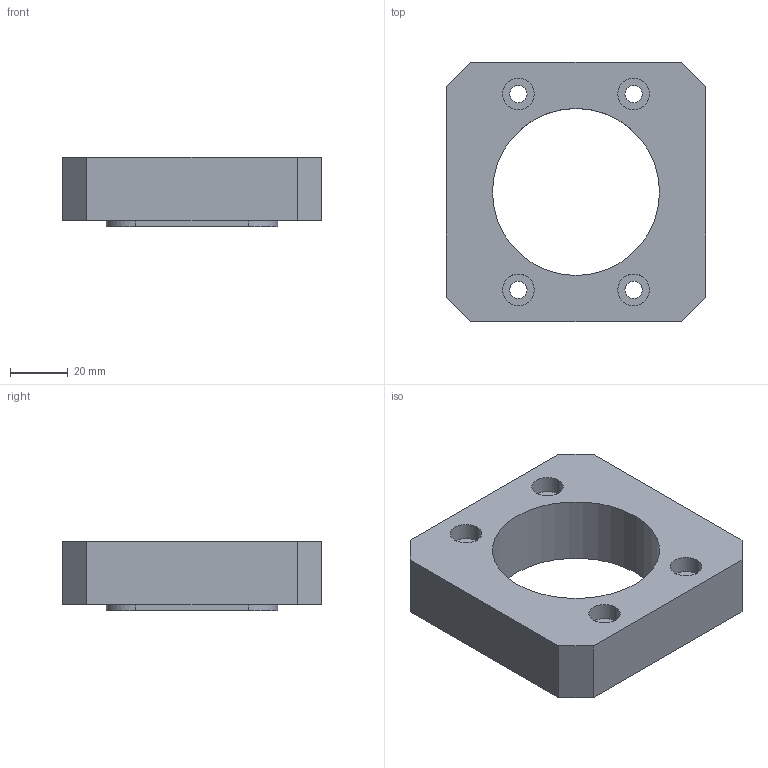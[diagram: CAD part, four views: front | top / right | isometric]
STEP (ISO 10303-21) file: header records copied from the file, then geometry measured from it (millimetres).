
FILE_DESCRIPTION((''),'2;1');
FILE_NAME('PI80','2017-07-20T',('Owner'),(''),'PRO/ENGINEER BY PARAMETRIC TECHNOLOGY CORPORATION, 2009440','PRO/ENGINEER BY PARAMETRIC TECHNOLOGY CORPORATION, 2009440','');
FILE_SCHEMA(('CONFIG_CONTROL_DESIGN'));
Length unit declared in the file: millimetre
Products named in the file (1): PI80
Bounding box: 90 x 90 x 24 mm (x, y, z)
Volume: 114429.6 mm3; surface area: 24733 mm2
Topology: 1 solids, 1 shells, 41 faces, 102 edges, 68 vertices
Faces by surface type: cylinder 22, plane 19
Entity records: 1298 total; most frequent: DIRECTION 228, CARTESIAN_POINT 211, ORIENTED_EDGE 204, EDGE_CURVE 102, AXIS2_PLACEMENT_3D 85, VERTEX_POINT 68, VECTOR 58, LINE 58
